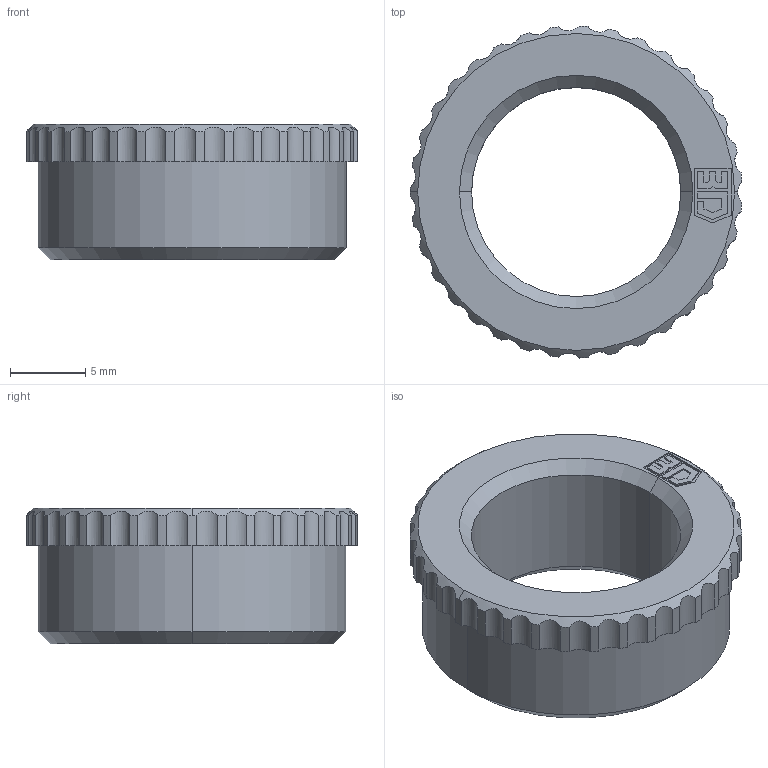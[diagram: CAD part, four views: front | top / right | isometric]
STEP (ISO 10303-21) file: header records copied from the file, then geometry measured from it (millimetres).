
FILE_DESCRIPTION (( 'STEP AP203' ), '1' );
FILE_NAME ('1309.STEP', '2005-11-22T09:15:38', ( ' ' ), ( '' ), 'SwSTEP 2.0', 'SolidWorks 2005278', '' );
FILE_SCHEMA (( 'CONFIG_CONTROL_DESIGN' ));
Length unit declared in the file: millimetre
Products named in the file (1): 1309
Bounding box: 21.98 x 22 x 9 mm (x, y, z)
Volume: 1638 mm3; surface area: 1348.9 mm2
Topology: 1 solids, 1 shells, 122 faces, 342 edges, 226 vertices
Faces by surface type: cylinder 74, plane 40, cone 8
Entity records: 4285 total; most frequent: CARTESIAN_POINT 1007, ORIENTED_EDGE 684, DIRECTION 674, EDGE_CURVE 342, AXIS2_PLACEMENT_3D 245, VERTEX_POINT 226, LINE 184, VECTOR 184
